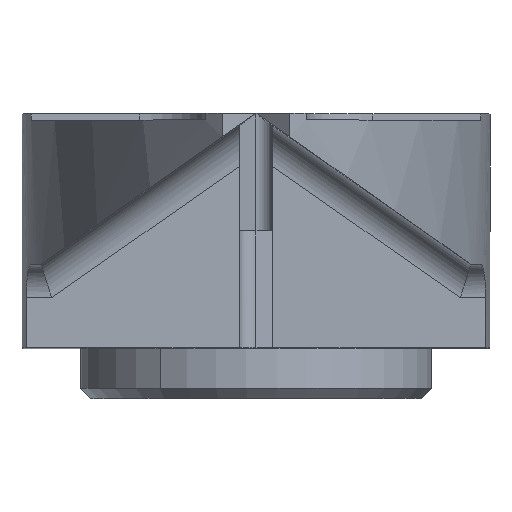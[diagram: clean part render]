
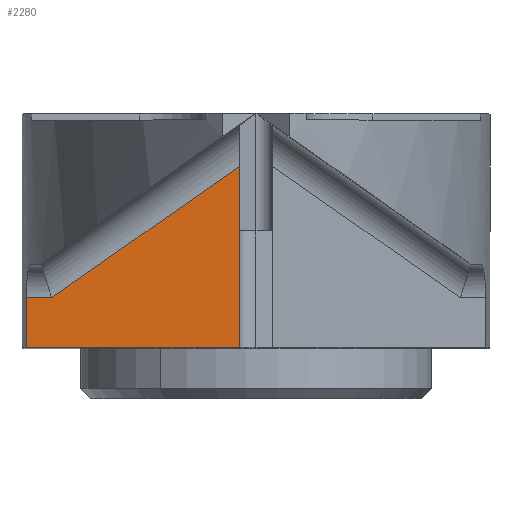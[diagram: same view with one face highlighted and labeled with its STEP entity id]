
A CAD part, top view. The second image highlights one B-rep face of the part: STEP entity #2280.
In plain terms, the highlighted planar face has unit normal (0, 0, 1).
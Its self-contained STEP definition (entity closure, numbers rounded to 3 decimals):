
#341 = DIRECTION ( 'NONE',  ( 0., -1., 0. ) ) ;
#380 = EDGE_CURVE ( 'NONE', #2866, #990, #1377, .T. ) ;
#388 = VECTOR ( 'NONE', #2429, 1000. ) ;
#569 = ORIENTED_EDGE ( 'NONE', *, *, #380, .T. ) ;
#638 = EDGE_CURVE ( 'NONE', #990, #3517, #3364, .T. ) ;
#679 = CARTESIAN_POINT ( 'NONE',  ( -6.111, 1.5, 9. ) ) ;
#868 = CARTESIAN_POINT ( 'NONE',  ( -0.5, 0., 9. ) ) ;
#990 = VERTEX_POINT ( 'NONE', #2525 ) ;
#1194 = DIRECTION ( 'NONE',  ( 0., 0., 1. ) ) ;
#1321 = ORIENTED_EDGE ( 'NONE', *, *, #2784, .T. ) ;
#1325 = ORIENTED_EDGE ( 'NONE', *, *, #3877, .T. ) ;
#1377 = LINE ( 'NONE', #1455, #3314 ) ;
#1392 = LINE ( 'NONE', #4386, #3220 ) ;
#1430 = PLANE ( 'NONE',  #3137 ) ;
#1455 = CARTESIAN_POINT ( 'NONE',  ( -3.685, 1.5, 9. ) ) ;
#1534 = ORIENTED_EDGE ( 'NONE', *, *, #4309, .F. ) ;
#1539 = ORIENTED_EDGE ( 'NONE', *, *, #638, .T. ) ;
#1778 = VECTOR ( 'NONE', #3957, 1000. ) ;
#2078 = VERTEX_POINT ( 'NONE', #3660 ) ;
#2280 = ADVANCED_FACE ( 'NONE', ( #3338 ), #1430, .T. ) ;
#2418 = CARTESIAN_POINT ( 'NONE',  ( 0., 0., 9. ) ) ;
#2429 = DIRECTION ( 'NONE',  ( -1., 0., 0. ) ) ;
#2525 = CARTESIAN_POINT ( 'NONE',  ( -6.869, 1.5, 9. ) ) ;
#2672 = DIRECTION ( 'NONE',  ( -0.819, -0.574, 0. ) ) ;
#2784 = EDGE_CURVE ( 'NONE', #2078, #2866, #1392, .T. ) ;
#2866 = VERTEX_POINT ( 'NONE', #679 ) ;
#3137 = AXIS2_PLACEMENT_3D ( 'NONE', #3251, #1194, #3588 ) ;
#3202 = VERTEX_POINT ( 'NONE', #868 ) ;
#3220 = VECTOR ( 'NONE', #2672, 1000. ) ;
#3251 = CARTESIAN_POINT ( 'NONE',  ( -6.869, 0., 9. ) ) ;
#3314 = VECTOR ( 'NONE', #4127, 1000. ) ;
#3338 = FACE_OUTER_BOUND ( 'NONE', #3770, .T. ) ;
#3364 = LINE ( 'NONE', #4176, #4048 ) ;
#3490 = LINE ( 'NONE', #3610, #1778 ) ;
#3517 = VERTEX_POINT ( 'NONE', #3768 ) ;
#3588 = DIRECTION ( 'NONE',  ( 1., 0., 0. ) ) ;
#3610 = CARTESIAN_POINT ( 'NONE',  ( -0.5, 2.715, 9. ) ) ;
#3660 = CARTESIAN_POINT ( 'NONE',  ( -0.5, 5.429, 9. ) ) ;
#3768 = CARTESIAN_POINT ( 'NONE',  ( -6.869, 0., 9. ) ) ;
#3770 = EDGE_LOOP ( 'NONE', ( #569, #1539, #1534, #1325, #1321 ) ) ;
#3877 = EDGE_CURVE ( 'NONE', #3202, #2078, #3490, .T. ) ;
#3957 = DIRECTION ( 'NONE',  ( 0., 1., 0. ) ) ;
#4024 = LINE ( 'NONE', #2418, #388 ) ;
#4048 = VECTOR ( 'NONE', #341, 1000. ) ;
#4127 = DIRECTION ( 'NONE',  ( -1., 0., 0. ) ) ;
#4176 = CARTESIAN_POINT ( 'NONE',  ( -6.869, 3.5, 9. ) ) ;
#4309 = EDGE_CURVE ( 'NONE', #3202, #3517, #4024, .T. ) ;
#4386 = CARTESIAN_POINT ( 'NONE',  ( -0.5, 5.429, 9. ) ) ;
